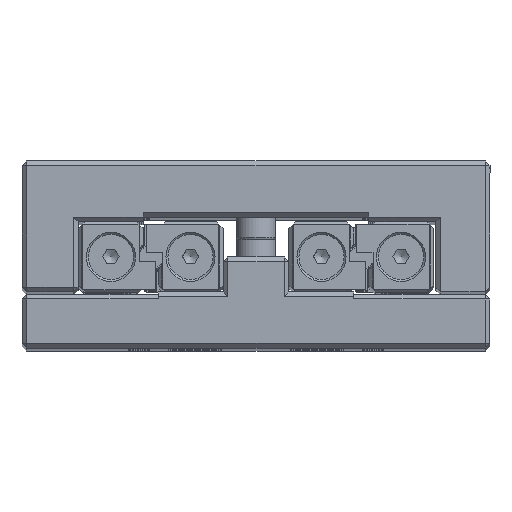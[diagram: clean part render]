
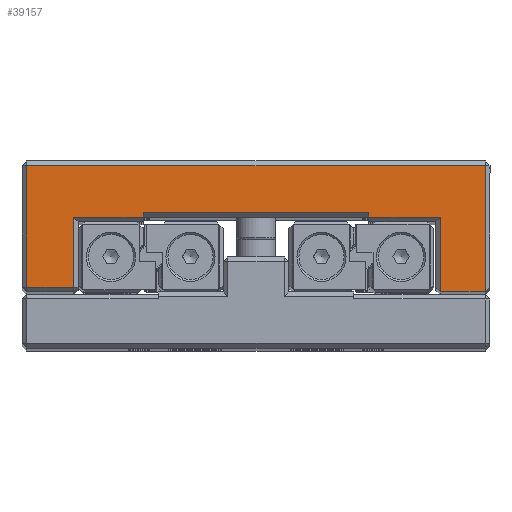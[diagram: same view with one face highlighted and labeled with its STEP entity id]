
A CAD part, top view. The second image highlights one B-rep face of the part: STEP entity #39157.
In plain terms, the highlighted planar face has unit normal (0, 0, 1).
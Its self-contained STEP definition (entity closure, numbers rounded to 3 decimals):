
#2276=PLANE('',#42329);
#4370=FACE_OUTER_BOUND('',#6687,.T.);
#6687=EDGE_LOOP('',(#31926,#31927,#31928,#31929,#31930,#31931,#31932,#31933,
#31934,#31935,#31936,#31937));
#9487=LINE('',#60809,#12959);
#9699=LINE('',#62026,#13171);
#9703=LINE('',#62034,#13175);
#9712=LINE('',#62049,#13184);
#9716=LINE('',#62057,#13188);
#9731=LINE('',#62083,#13203);
#9734=LINE('',#62087,#13206);
#9755=LINE('',#62132,#13227);
#9761=LINE('',#62146,#13233);
#9765=LINE('',#62151,#13237);
#9769=LINE('',#62158,#13241);
#9770=LINE('',#62160,#13242);
#12959=VECTOR('',#48914,10.);
#13171=VECTOR('',#49984,10.);
#13175=VECTOR('',#49992,10.);
#13184=VECTOR('',#50007,10.);
#13188=VECTOR('',#50013,10.);
#13203=VECTOR('',#50038,10.);
#13206=VECTOR('',#50043,10.);
#13227=VECTOR('',#50098,10.);
#13233=VECTOR('',#50108,10.);
#13237=VECTOR('',#50114,10.);
#13241=VECTOR('',#50120,10.);
#13242=VECTOR('',#50123,10.);
#17657=VERTEX_POINT('',#60805);
#17659=VERTEX_POINT('',#60808);
#18043=VERTEX_POINT('',#62025);
#18044=VERTEX_POINT('',#62032);
#18045=VERTEX_POINT('',#62033);
#18048=VERTEX_POINT('',#62048);
#18051=VERTEX_POINT('',#62055);
#18057=VERTEX_POINT('',#62081);
#18061=VERTEX_POINT('',#62125);
#18064=VERTEX_POINT('',#62130);
#18069=VERTEX_POINT('',#62143);
#18072=VERTEX_POINT('',#62154);
#22353=EDGE_CURVE('',#17659,#17657,#9487,.T.);
#22887=EDGE_CURVE('',#17659,#18043,#9699,.T.);
#22891=EDGE_CURVE('',#18044,#18045,#9703,.T.);
#22900=EDGE_CURVE('',#18045,#18048,#9712,.T.);
#22904=EDGE_CURVE('',#18051,#17657,#9716,.T.);
#22919=EDGE_CURVE('',#18057,#18051,#9731,.T.);
#22922=EDGE_CURVE('',#18048,#18057,#9734,.T.);
#22943=EDGE_CURVE('',#18064,#18061,#9755,.T.);
#22949=EDGE_CURVE('',#18064,#18069,#9761,.T.);
#22953=EDGE_CURVE('',#18043,#18069,#9765,.T.);
#22957=EDGE_CURVE('',#18072,#18061,#9769,.T.);
#22958=EDGE_CURVE('',#18072,#18044,#9770,.T.);
#31926=ORIENTED_EDGE('',*,*,#22891,.F.);
#31927=ORIENTED_EDGE('',*,*,#22958,.F.);
#31928=ORIENTED_EDGE('',*,*,#22957,.T.);
#31929=ORIENTED_EDGE('',*,*,#22943,.F.);
#31930=ORIENTED_EDGE('',*,*,#22949,.T.);
#31931=ORIENTED_EDGE('',*,*,#22953,.F.);
#31932=ORIENTED_EDGE('',*,*,#22887,.F.);
#31933=ORIENTED_EDGE('',*,*,#22353,.T.);
#31934=ORIENTED_EDGE('',*,*,#22904,.F.);
#31935=ORIENTED_EDGE('',*,*,#22919,.F.);
#31936=ORIENTED_EDGE('',*,*,#22922,.F.);
#31937=ORIENTED_EDGE('',*,*,#22900,.F.);
#39157=ADVANCED_FACE('',(#4370),#2276,.T.);
#42329=AXIS2_PLACEMENT_3D('',#62159,#50121,#50122);
#48914=DIRECTION('',(1.,0.,0.));
#49984=DIRECTION('',(0.,1.,0.));
#49992=DIRECTION('',(0.,-1.,0.));
#50007=DIRECTION('',(-1.,0.,0.));
#50013=DIRECTION('',(0.,-1.,0.));
#50038=DIRECTION('',(1.,0.,0.));
#50043=DIRECTION('',(0.,1.,0.));
#50098=DIRECTION('',(-1.,0.,0.));
#50108=DIRECTION('',(0.,-1.,0.));
#50114=DIRECTION('',(-1.,0.,0.));
#50120=DIRECTION('',(0.,1.,0.));
#50121=DIRECTION('center_axis',(0.,0.,
1.));
#50122=DIRECTION('ref_axis',(1.,0.,0.));
#50123=DIRECTION('',(-1.,0.,0.));
#60805=CARTESIAN_POINT('',(19.869,67.583,164.133));
#60808=CARTESIAN_POINT('',(10.269,67.583,164.133));
#60809=CARTESIAN_POINT('',(9.269,67.583,164.133));
#62025=CARTESIAN_POINT('',(10.269,83.583,164.133));
#62026=CARTESIAN_POINT('',(10.269,82.083,164.133));
#62032=CARTESIAN_POINT('',(-68.131,83.583,164.133));
#62033=CARTESIAN_POINT('',(-68.131,68.583,164.133));
#62034=CARTESIAN_POINT('',(-68.131,74.583,164.133));
#62048=CARTESIAN_POINT('',(-78.131,68.583,164.133));
#62049=CARTESIAN_POINT('',(-54.131,68.583,164.133));
#62055=CARTESIAN_POINT('',(19.869,94.583,164.133));
#62057=CARTESIAN_POINT('',(19.869,74.583,164.133));
#62081=CARTESIAN_POINT('',(-78.131,94.583,164.133));
#62083=CARTESIAN_POINT('',(-4.131,94.583,164.133));
#62087=CARTESIAN_POINT('',(-78.131,88.583,164.133));
#62125=CARTESIAN_POINT('',(-53.231,84.583,164.133));
#62130=CARTESIAN_POINT('',(-5.031,84.583,164.133));
#62132=CARTESIAN_POINT('',(-41.181,84.583,164.133));
#62143=CARTESIAN_POINT('',(-5.031,83.583,164.133));
#62146=CARTESIAN_POINT('',(-5.031,83.583,164.133));
#62151=CARTESIAN_POINT('',(-17.081,83.583,164.133));
#62154=CARTESIAN_POINT('',(-53.231,83.583,164.133));
#62158=CARTESIAN_POINT('',(-53.231,82.583,164.133));
#62159=CARTESIAN_POINT('Origin',(-29.131,81.583,164.133));
#62160=CARTESIAN_POINT('',(-48.131,83.583,164.133));
